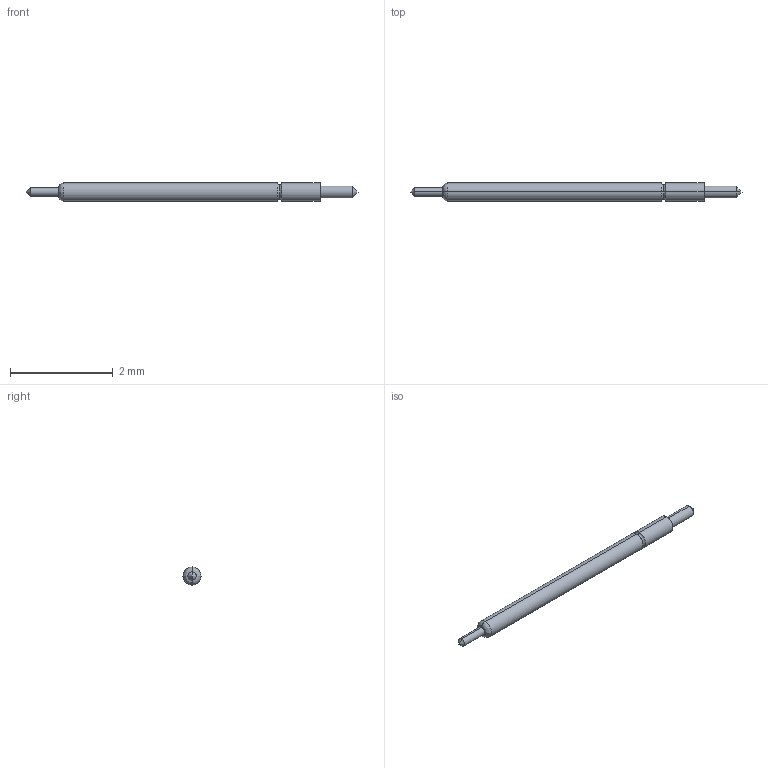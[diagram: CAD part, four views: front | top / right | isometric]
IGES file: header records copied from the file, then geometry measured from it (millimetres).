
Start section: SolidWorks IGES file using analytic representation for surfaces
Global section: file name: Z:\probe solid model mockups\Solidworks models\IGES Files\CSP5-20 IGES files\CSP5-20BB.IGS; native system: SolidWorks 2006 by SolidWorks Corporation; preprocessor: SolidWorks 2006 by SolidWorks Corporation; author: tsakatani; date: 080108.143651; units: inch
Bounding box: 6.45 x 0.35 x 0.35 mm (x, y, z)
Surface area: 6.5 mm2 (no closed solid volume)
Topology: 0 solids, 0 shells, 19 faces, 104 edges, 100 vertices
Faces by surface type: revolution 12, bspline 7
